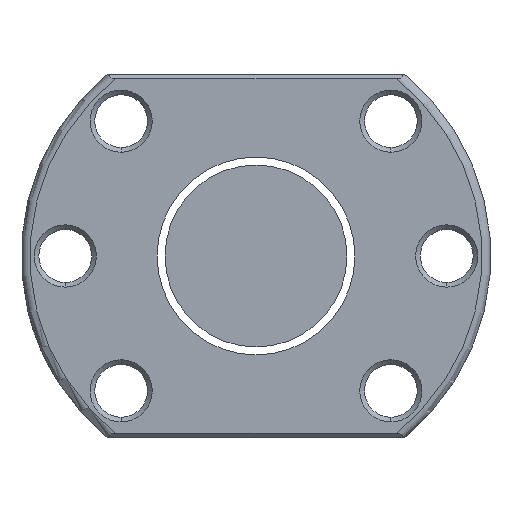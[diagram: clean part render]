
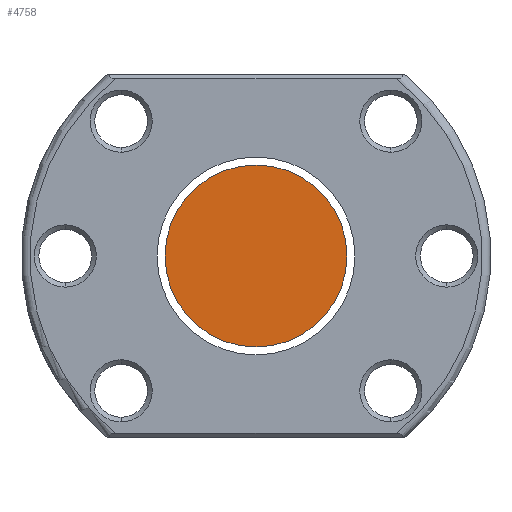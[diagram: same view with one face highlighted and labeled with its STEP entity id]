
A CAD part, left-side view. The second image highlights one B-rep face of the part: STEP entity #4758.
In plain terms, the highlighted planar face has unit normal (-1, 0, 0).
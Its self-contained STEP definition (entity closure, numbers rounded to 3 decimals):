
#104 = EDGE_CURVE ( 'NONE', #2120, #4797, #5451, .T. ) ;
#420 = DIRECTION ( 'NONE',  ( -1., 0., 0. ) ) ;
#628 = AXIS2_PLACEMENT_3D ( 'NONE', #4296, #420, #1428 ) ;
#949 = DIRECTION ( 'NONE',  ( 0., 0., -1. ) ) ;
#1421 = EDGE_LOOP ( 'NONE', ( #3850, #4420 ) ) ;
#1428 = DIRECTION ( 'NONE',  ( 0., 0., 1. ) ) ;
#1965 = CARTESIAN_POINT ( 'NONE',  ( -300., 0., -15.5 ) ) ;
#2061 = CIRCLE ( 'NONE', #3060, 15.5 ) ;
#2120 = VERTEX_POINT ( 'NONE', #1965 ) ;
#2508 = AXIS2_PLACEMENT_3D ( 'NONE', #3895, #3113, #949 ) ;
#2566 = CARTESIAN_POINT ( 'NONE',  ( -300., 0., 0. ) ) ;
#2594 = PLANE ( 'NONE',  #628 ) ;
#2984 = FACE_OUTER_BOUND ( 'NONE', #1421, .T. ) ;
#3060 = AXIS2_PLACEMENT_3D ( 'NONE', #2566, #5155, #5255 ) ;
#3113 = DIRECTION ( 'NONE',  ( 1., 0., 0. ) ) ;
#3850 = ORIENTED_EDGE ( 'NONE', *, *, #104, .F. ) ;
#3895 = CARTESIAN_POINT ( 'NONE',  ( -300., 0., 0. ) ) ;
#4296 = CARTESIAN_POINT ( 'NONE',  ( -300., 0., 0. ) ) ;
#4420 = ORIENTED_EDGE ( 'NONE', *, *, #4693, .F. ) ;
#4693 = EDGE_CURVE ( 'NONE', #4797, #2120, #2061, .T. ) ;
#4758 = ADVANCED_FACE ( 'NONE', ( #2984 ), #2594, .T. ) ;
#4797 = VERTEX_POINT ( 'NONE', #5128 ) ;
#5128 = CARTESIAN_POINT ( 'NONE',  ( -300., 0., 15.5 ) ) ;
#5155 = DIRECTION ( 'NONE',  ( 1., 0., 0. ) ) ;
#5255 = DIRECTION ( 'NONE',  ( 0., 0., -1. ) ) ;
#5451 = CIRCLE ( 'NONE', #2508, 15.5 ) ;
